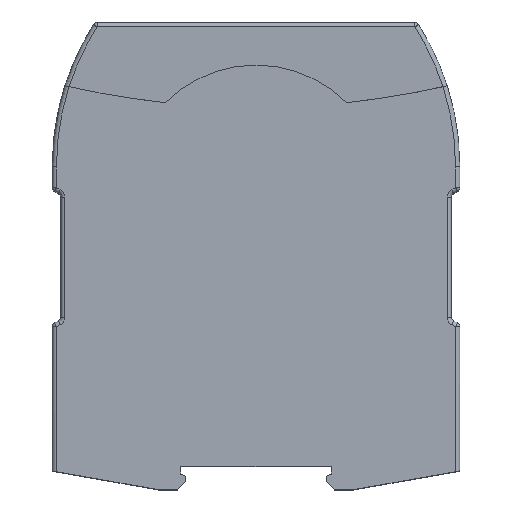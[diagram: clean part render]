
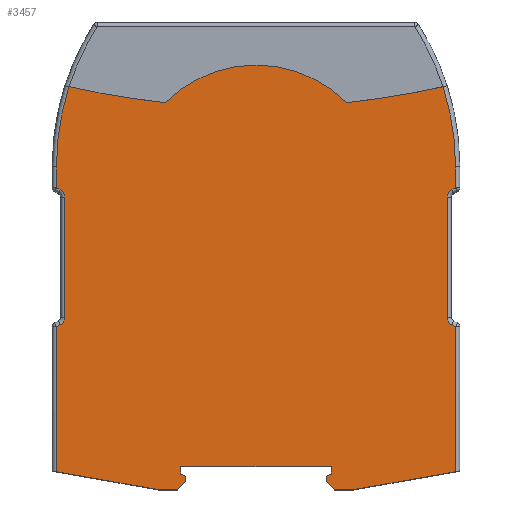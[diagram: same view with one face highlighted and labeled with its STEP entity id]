
A CAD part, top view. The second image highlights one B-rep face of the part: STEP entity #3457.
In plain terms, the highlighted planar face has unit normal (0, 0, 1).
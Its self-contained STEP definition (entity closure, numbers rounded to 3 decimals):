
#622=DIRECTION('',(0.,-1.,0.));
#623=VECTOR('',#622,34.15);
#624=CARTESIAN_POINT('',(-47.,38.382,45.));
#625=LINE('',#624,#623);
#629=DIRECTION('',(-0.894,-0.447,0.));
#630=VECTOR('',#629,1.);
#631=CARTESIAN_POINT('',(-46.106,38.829,45.));
#632=LINE('',#631,#630);
#636=CARTESIAN_POINT('',(-47.,40.618,45.));
#637=DIRECTION('',(0.,0.,-1.));
#638=DIRECTION('',(1.,0.,0.));
#639=AXIS2_PLACEMENT_3D('',#636,#637,#638);
#644=DIRECTION('',(0.,-1.,0.));
#645=VECTOR('',#644,28.264);
#646=CARTESIAN_POINT('',(-45.,68.882,45.));
#647=LINE('',#646,#645);
#651=CARTESIAN_POINT('',(-47.,68.882,45.));
#652=DIRECTION('',(0.,0.,-1.));
#653=DIRECTION('',(0.447,0.894,0.));
#654=AXIS2_PLACEMENT_3D('',#651,#652,#653);
#659=DIRECTION('',(0.894,-0.447,0.));
#660=VECTOR('',#659,1.);
#661=CARTESIAN_POINT('',(-47.,71.118,45.));
#662=LINE('',#661,#660);
#666=DIRECTION('',(0.,-1.,0.));
#667=VECTOR('',#666,4.882);
#668=CARTESIAN_POINT('',(-47.,76.,45.));
#669=LINE('',#668,#667);
#673=CARTESIAN_POINT('',(14.531,76.,45.));
#674=DIRECTION('',(0.,0.,1.));
#675=DIRECTION('',(-0.952,0.307,0.));
#676=AXIS2_PLACEMENT_3D('',#673,#674,#675);
#681=CARTESIAN_POINT('',(0.,290.,45.));
#682=DIRECTION('',(0.,0.,1.));
#683=DIRECTION('',(-0.22,-0.975,0.));
#684=AXIS2_PLACEMENT_3D('',#681,#682,#683);
#689=CARTESIAN_POINT('',(0.,70.,45.));
#690=DIRECTION('',(0.,0.,1.));
#691=DIRECTION('',(0.71,0.705,0.));
#692=AXIS2_PLACEMENT_3D('',#689,#690,#691);
#697=CARTESIAN_POINT('',(0.,290.,45.));
#698=DIRECTION('',(0.,0.,1.));
#699=DIRECTION('',(0.106,-0.994,0.));
#700=AXIS2_PLACEMENT_3D('',#697,#698,#699);
#705=CARTESIAN_POINT('',(-14.531,76.,45.));
#706=DIRECTION('',(0.,0.,1.));
#707=DIRECTION('',(1.,0.,0.));
#708=AXIS2_PLACEMENT_3D('',#705,#706,#707);
#713=DIRECTION('',(0.,1.,0.));
#714=VECTOR('',#713,4.882);
#715=CARTESIAN_POINT('',(47.,71.118,45.));
#716=LINE('',#715,#714);
#720=DIRECTION('',(0.894,0.447,0.));
#721=VECTOR('',#720,1.);
#722=CARTESIAN_POINT('',(46.106,70.671,45.));
#723=LINE('',#722,#721);
#727=CARTESIAN_POINT('',(47.,68.882,45.));
#728=DIRECTION('',(0.,0.,-1.));
#729=DIRECTION('',(-1.,0.,0.));
#730=AXIS2_PLACEMENT_3D('',#727,#728,#729);
#735=DIRECTION('',(0.,1.,0.));
#736=VECTOR('',#735,28.264);
#737=CARTESIAN_POINT('',(45.,40.618,45.));
#738=LINE('',#737,#736);
#742=CARTESIAN_POINT('',(47.,40.618,45.));
#743=DIRECTION('',(0.,0.,-1.));
#744=DIRECTION('',(-0.447,-0.894,0.));
#745=AXIS2_PLACEMENT_3D('',#742,#743,#744);
#750=DIRECTION('',(-0.894,0.447,0.));
#751=VECTOR('',#750,1.);
#752=CARTESIAN_POINT('',(47.,38.382,45.));
#753=LINE('',#752,#751);
#757=DIRECTION('',(0.,1.,0.));
#758=VECTOR('',#757,34.15);
#759=CARTESIAN_POINT('',(47.,4.232,45.));
#760=LINE('',#759,#758);
#764=DIRECTION('',(0.985,0.174,0.));
#765=VECTOR('',#764,24.37);
#766=CARTESIAN_POINT('',(23.,0.,45.));
#767=LINE('',#766,#765);
#771=DIRECTION('',(0.707,-0.707,0.));
#772=VECTOR('',#771,2.828);
#773=CARTESIAN_POINT('',(16.5,2.,45.));
#774=LINE('',#773,#772);
#778=DIRECTION('',(0.,-1.,0.));
#779=VECTOR('',#778,1.208);
#780=CARTESIAN_POINT('',(16.5,3.208,45.));
#781=LINE('',#780,#779);
#785=DIRECTION('',(-0.94,-0.342,0.));
#786=VECTOR('',#785,1.277);
#787=CARTESIAN_POINT('',(17.7,3.645,45.));
#788=LINE('',#787,#786);
#792=DIRECTION('',(0.,1.,0.));
#793=VECTOR('',#792,1.855);
#794=CARTESIAN_POINT('',(17.7,3.645,45.));
#795=LINE('',#794,#793);
#799=DIRECTION('',(-1.,0.,0.));
#800=VECTOR('',#799,35.4);
#801=CARTESIAN_POINT('',(17.7,5.5,45.));
#802=LINE('',#801,#800);
#806=DIRECTION('',(0.,1.,0.));
#807=VECTOR('',#806,1.855);
#808=CARTESIAN_POINT('',(-17.7,3.645,45.));
#809=LINE('',#808,#807);
#813=DIRECTION('',(-0.94,0.342,0.));
#814=VECTOR('',#813,1.277);
#815=CARTESIAN_POINT('',(-16.5,3.208,45.));
#816=LINE('',#815,#814);
#820=DIRECTION('',(0.,1.,0.));
#821=VECTOR('',#820,1.208);
#822=CARTESIAN_POINT('',(-16.5,2.,45.));
#823=LINE('',#822,#821);
#827=DIRECTION('',(0.707,0.707,0.));
#828=VECTOR('',#827,2.828);
#829=CARTESIAN_POINT('',(-18.5,0.,45.));
#830=LINE('',#829,#828);
#834=DIRECTION('',(0.985,-0.174,0.));
#835=VECTOR('',#834,24.37);
#836=CARTESIAN_POINT('',(-47.,4.232,45.));
#837=LINE('',#836,#835);
#849=CARTESIAN_POINT('',(-47.,4.232,45.));
#871=DIRECTION('',(1.,0.,0.));
#872=VECTOR('',#871,4.5);
#873=CARTESIAN_POINT('',(-23.,0.,45.));
#874=LINE('',#873,#872);
#906=DIRECTION('',(1.,0.,0.));
#907=VECTOR('',#906,4.5);
#908=CARTESIAN_POINT('',(18.5,0.,45.));
#909=LINE('',#908,#907);
#989=CARTESIAN_POINT('',(47.,4.232,45.));
#2680=CARTESIAN_POINT('',(23.,0.,45.));
#2682=VERTEX_POINT('',#2680);
#2684=CARTESIAN_POINT('',(-23.,0.,45.));
#2686=VERTEX_POINT('',#2684);
#2692=CARTESIAN_POINT('',(17.7,5.5,45.));
#2693=CARTESIAN_POINT('',(-17.7,5.5,45.));
#2694=VERTEX_POINT('',#2692);
#2695=VERTEX_POINT('',#2693);
#2708=CARTESIAN_POINT('',(-18.5,0.,45.));
#2709=CARTESIAN_POINT('',(-16.5,2.,45.));
#2710=VERTEX_POINT('',#2708);
#2711=VERTEX_POINT('',#2709);
#2712=CARTESIAN_POINT('',(-16.5,3.208,45.));
#2713=VERTEX_POINT('',#2712);
#2714=CARTESIAN_POINT('',(16.5,3.208,45.));
#2715=CARTESIAN_POINT('',(16.5,2.,45.));
#2716=VERTEX_POINT('',#2714);
#2717=VERTEX_POINT('',#2715);
#2718=CARTESIAN_POINT('',(18.5,0.,45.));
#2719=VERTEX_POINT('',#2718);
#2724=CARTESIAN_POINT('',(-17.7,3.645,45.));
#2725=VERTEX_POINT('',#2724);
#2726=CARTESIAN_POINT('',(17.7,3.645,45.));
#2727=VERTEX_POINT('',#2726);
#2752=CARTESIAN_POINT('',(21.29,91.136,45.));
#2753=CARTESIAN_POINT('',(-21.29,91.136,45.));
#2754=VERTEX_POINT('',#2752);
#2755=VERTEX_POINT('',#2753);
#2771=VERTEX_POINT('',#849);
#2775=CARTESIAN_POINT('',(-47.,38.382,45.));
#2776=VERTEX_POINT('',#2775);
#2779=CARTESIAN_POINT('',(-46.106,38.829,45.));
#2780=VERTEX_POINT('',#2779);
#2783=CARTESIAN_POINT('',(-45.,40.618,45.));
#2784=VERTEX_POINT('',#2783);
#2787=CARTESIAN_POINT('',(-45.,68.882,45.));
#2788=VERTEX_POINT('',#2787);
#2791=CARTESIAN_POINT('',(-46.106,70.671,45.));
#2792=VERTEX_POINT('',#2791);
#2795=CARTESIAN_POINT('',(-47.,71.118,45.));
#2796=VERTEX_POINT('',#2795);
#2801=CARTESIAN_POINT('',(-47.,76.,45.));
#2802=VERTEX_POINT('',#2801);
#2805=CARTESIAN_POINT('',(-44.024,94.905,45.));
#2806=VERTEX_POINT('',#2805);
#2833=CARTESIAN_POINT('',(47.,76.,45.));
#2834=CARTESIAN_POINT('',(44.024,94.905,45.));
#2835=VERTEX_POINT('',#2833);
#2836=VERTEX_POINT('',#2834);
#2837=CARTESIAN_POINT('',(47.,71.118,45.));
#2838=VERTEX_POINT('',#2837);
#2843=CARTESIAN_POINT('',(46.106,70.671,45.));
#2844=VERTEX_POINT('',#2843);
#2847=CARTESIAN_POINT('',(45.,68.882,45.));
#2848=VERTEX_POINT('',#2847);
#2851=CARTESIAN_POINT('',(45.,40.618,45.));
#2852=VERTEX_POINT('',#2851);
#2855=CARTESIAN_POINT('',(46.106,38.829,45.));
#2856=VERTEX_POINT('',#2855);
#2859=CARTESIAN_POINT('',(47.,38.382,45.));
#2860=VERTEX_POINT('',#2859);
#2866=VERTEX_POINT('',#989);
#3389=CARTESIAN_POINT('',(0.,0.,45.));
#3390=DIRECTION('',(0.,0.,1.));
#3391=DIRECTION('',(1.,0.,0.));
#3392=AXIS2_PLACEMENT_3D('',#3389,#3390,#3391);
#3393=PLANE('',#3392);
#3395=ORIENTED_EDGE('',*,*,#3394,.F.);
#3397=ORIENTED_EDGE('',*,*,#3396,.F.);
#3399=ORIENTED_EDGE('',*,*,#3398,.F.);
#3401=ORIENTED_EDGE('',*,*,#3400,.F.);
#3403=ORIENTED_EDGE('',*,*,#3402,.F.);
#3405=ORIENTED_EDGE('',*,*,#3404,.F.);
#3407=ORIENTED_EDGE('',*,*,#3406,.F.);
#3409=ORIENTED_EDGE('',*,*,#3408,.F.);
#3411=ORIENTED_EDGE('',*,*,#3410,.T.);
#3413=ORIENTED_EDGE('',*,*,#3412,.F.);
#3414=ORIENTED_EDGE('',*,*,#3353,.T.);
#3415=ORIENTED_EDGE('',*,*,#3368,.F.);
#3416=ORIENTED_EDGE('',*,*,#3379,.F.);
#3418=ORIENTED_EDGE('',*,*,#3417,.F.);
#3420=ORIENTED_EDGE('',*,*,#3419,.F.);
#3422=ORIENTED_EDGE('',*,*,#3421,.F.);
#3424=ORIENTED_EDGE('',*,*,#3423,.F.);
#3426=ORIENTED_EDGE('',*,*,#3425,.F.);
#3428=ORIENTED_EDGE('',*,*,#3427,.F.);
#3430=ORIENTED_EDGE('',*,*,#3429,.F.);
#3432=ORIENTED_EDGE('',*,*,#3431,.F.);
#3434=ORIENTED_EDGE('',*,*,#3433,.F.);
#3436=ORIENTED_EDGE('',*,*,#3435,.F.);
#3438=ORIENTED_EDGE('',*,*,#3437,.F.);
#3440=ORIENTED_EDGE('',*,*,#3439,.T.);
#3442=ORIENTED_EDGE('',*,*,#3441,.T.);
#3444=ORIENTED_EDGE('',*,*,#3443,.F.);
#3446=ORIENTED_EDGE('',*,*,#3445,.F.);
#3448=ORIENTED_EDGE('',*,*,#3447,.F.);
#3450=ORIENTED_EDGE('',*,*,#3449,.F.);
#3452=ORIENTED_EDGE('',*,*,#3451,.F.);
#3454=ORIENTED_EDGE('',*,*,#3453,.F.);
#3455=EDGE_LOOP('',(#3395,#3397,#3399,#3401,#3403,#3405,#3407,#3409,#3411,#3413,
#3414,#3415,#3416,#3418,#3420,#3422,#3424,#3426,#3428,#3430,#3432,#3434,#3436,
#3438,#3440,#3442,#3444,#3446,#3448,#3450,#3452,#3454));
#3456=FACE_OUTER_BOUND('',#3455,.F.);
#640=CIRCLE('',#639,2.);
#655=CIRCLE('',#654,2.);
#677=CIRCLE('',#676,61.531);
#685=CIRCLE('',#684,200.);
#693=CIRCLE('',#692,30.);
#701=CIRCLE('',#700,200.);
#709=CIRCLE('',#708,61.531);
#731=CIRCLE('',#730,2.);
#746=CIRCLE('',#745,2.);
#3353=EDGE_CURVE('',#2754,#2836,#701,.T.);
#3368=EDGE_CURVE('',#2835,#2836,#709,.T.);
#3379=EDGE_CURVE('',#2838,#2835,#716,.T.);
#3394=EDGE_CURVE('',#2776,#2771,#625,.T.);
#3396=EDGE_CURVE('',#2780,#2776,#632,.T.);
#3398=EDGE_CURVE('',#2784,#2780,#640,.T.);
#3400=EDGE_CURVE('',#2788,#2784,#647,.T.);
#3402=EDGE_CURVE('',#2792,#2788,#655,.T.);
#3404=EDGE_CURVE('',#2796,#2792,#662,.T.);
#3406=EDGE_CURVE('',#2802,#2796,#669,.T.);
#3408=EDGE_CURVE('',#2806,#2802,#677,.T.);
#3410=EDGE_CURVE('',#2806,#2755,#685,.T.);
#3412=EDGE_CURVE('',#2754,#2755,#693,.T.);
#3417=EDGE_CURVE('',#2844,#2838,#723,.T.);
#3419=EDGE_CURVE('',#2848,#2844,#731,.T.);
#3421=EDGE_CURVE('',#2852,#2848,#738,.T.);
#3423=EDGE_CURVE('',#2856,#2852,#746,.T.);
#3425=EDGE_CURVE('',#2860,#2856,#753,.T.);
#3427=EDGE_CURVE('',#2866,#2860,#760,.T.);
#3429=EDGE_CURVE('',#2682,#2866,#767,.T.);
#3431=EDGE_CURVE('',#2719,#2682,#909,.T.);
#3433=EDGE_CURVE('',#2717,#2719,#774,.T.);
#3435=EDGE_CURVE('',#2716,#2717,#781,.T.);
#3437=EDGE_CURVE('',#2727,#2716,#788,.T.);
#3439=EDGE_CURVE('',#2727,#2694,#795,.T.);
#3441=EDGE_CURVE('',#2694,#2695,#802,.T.);
#3443=EDGE_CURVE('',#2725,#2695,#809,.T.);
#3445=EDGE_CURVE('',#2713,#2725,#816,.T.);
#3447=EDGE_CURVE('',#2711,#2713,#823,.T.);
#3449=EDGE_CURVE('',#2710,#2711,#830,.T.);
#3451=EDGE_CURVE('',#2686,#2710,#874,.T.);
#3453=EDGE_CURVE('',#2771,#2686,#837,.T.);
#3457=ADVANCED_FACE('',(#3456),#3393,.T.);
